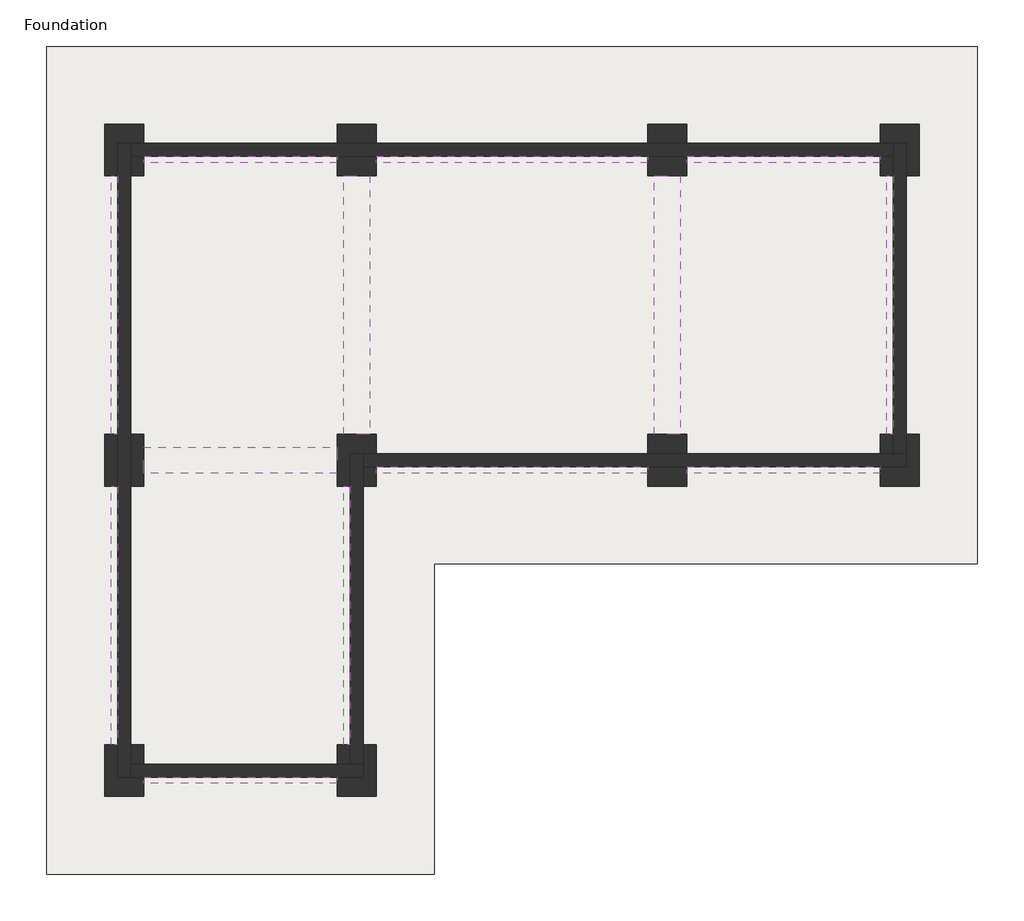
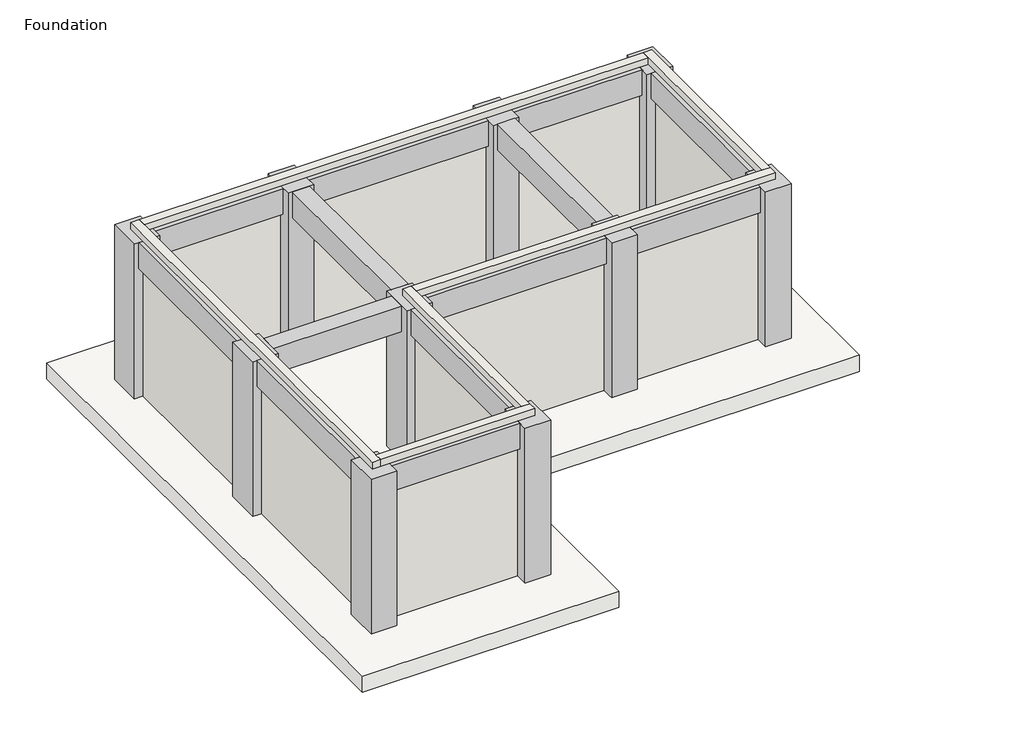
# One storey: 13 beams, 11 slabs, 10 columns, 6 walls.
"""IFC4 building model written with IfcOpenShell, lengths in millimetres."""

from ifc_helpers import new_model, si_unit, frame, origin, origin_with_axes, place, context, project, spatial, polyline, outline, extrude, faceted_brep, element, save

model = new_model("IFC4")

# Units and contexts
model_context = context("Model", 3, world=origin())
ifc_project = project(units=[si_unit("LENGTHUNIT", "METRE", prefix="MILLI")], contexts=[model_context])

# Site, building, storey
site = spatial("IfcSite", under=ifc_project)
building = spatial("IfcBuilding", under=site)
storey = spatial("IfcBuildingStorey", under=building, Name="Foundation", Elevation=0.0)

# Beams
placement = place(None, origin())
element("IfcBeam", 1, ObjectType="Concrete-Rectangular Beam : 12 x 24", at=placement, inside=storey, context=model_context, shape_type="SweptSolid", body=[
    extrude(outline(polyline([(-20798.018666, 15705.8753347), (-23084.018666, 15705.8753347), (-23084.018666, 15782.0753347), (-20798.018666, 15782.0753347), (-20798.018666, 15705.8753347)])), frame((0.0, 0.0, 2438.4), z_axis=(0.0, 0.0, 1.0), x_axis=(1.0, 0.0, 0.0)), (0.0, 0.0, 1.0), 482.6),
    extrude(outline(polyline([(-23084.018666, 16010.6753347), (-20798.018666, 16010.6753347), (-20798.018666, 15934.4753347), (-23084.018666, 15934.4753347), (-23084.018666, 16010.6753347)])), frame((0.0, 0.0, 2438.4), z_axis=(0.0, 0.0, 1.0), x_axis=(1.0, 0.0, 0.0)), (0.0, 0.0, 1.0), 482.6),
])
element("IfcBeam", 2, ObjectType="Concrete-Rectangular Beam : 12 x 24", at=placement, inside=storey, context=model_context, shape_type="SweptSolid", body=[
    extrude(outline(polyline([(-17140.418666, 15705.8753347), (-20340.818666, 15705.8753347), (-20340.818666, 15782.0753347), (-17140.418666, 15782.0753347), (-17140.418666, 15705.8753347)])), frame((0.0, 0.0, 2438.4), z_axis=(0.0, 0.0, 1.0), x_axis=(1.0, 0.0, 0.0)), (0.0, 0.0, 1.0), 482.6),
    extrude(outline(polyline([(-20340.818666, 16010.6753347), (-17140.418666, 16010.6753347), (-17140.418666, 15934.4753347), (-20340.818666, 15934.4753347), (-20340.818666, 16010.6753347)])), frame((0.0, 0.0, 2438.4), z_axis=(0.0, 0.0, 1.0), x_axis=(1.0, 0.0, 0.0)), (0.0, 0.0, 1.0), 482.6),
])
element("IfcBeam", 3, ObjectType="Concrete-Rectangular Beam : 12 x 24", at=placement, inside=storey, context=model_context, shape_type="SweptSolid", body=[
    extrude(outline(polyline([(-14397.218666, 15705.8753347), (-16683.218666, 15705.8753347), (-16683.218666, 15782.0753347), (-14397.218666, 15782.0753347), (-14397.218666, 15705.8753347)])), frame((0.0, 0.0, 2438.4), z_axis=(0.0, 0.0, 1.0), x_axis=(1.0, 0.0, 0.0)), (0.0, 0.0, 1.0), 482.6),
    extrude(outline(polyline([(-16683.218666, 16010.6753347), (-14397.218666, 16010.6753347), (-14397.218666, 15934.4753347), (-16683.218666, 15934.4753347), (-16683.218666, 16010.6753347)])), frame((0.0, 0.0, 2438.4), z_axis=(0.0, 0.0, 1.0), x_axis=(1.0, 0.0, 0.0)), (0.0, 0.0, 1.0), 482.6),
])
element("IfcBeam", 4, ObjectType="Concrete-Rectangular Beam : 12 x 24", at=placement, inside=storey, context=model_context, shape_type="SweptSolid", body=[
    extrude(outline(polyline([(-14321.018666, 12505.4753347), (-14321.018666, 15553.4753347), (-14244.818666, 15553.4753347), (-14244.818666, 12505.4753347), (-14321.018666, 12505.4753347)])), frame((0.0, 0.0, 2438.4), z_axis=(0.0, 0.0, 1.0), x_axis=(1.0, 0.0, 0.0)), (0.0, 0.0, 1.0), 482.6),
    extrude(outline(polyline([(-14016.218666, 15553.4753347), (-14016.218666, 12505.4753347), (-14092.418666, 12505.4753347), (-14092.418666, 15553.4753347), (-14016.218666, 15553.4753347)])), frame((0.0, 0.0, 2438.4), z_axis=(0.0, 0.0, 1.0), x_axis=(1.0, 0.0, 0.0)), (0.0, 0.0, 1.0), 482.6),
])
element("IfcBeam", 5, ObjectType="Concrete-Rectangular Beam : 12 x 24", at=placement, inside=storey, context=model_context, shape_type="SweptSolid", body=[
    extrude(outline(polyline([(-16683.218666, 12353.0753347), (-14397.218666, 12353.0753347), (-14397.218666, 12276.8753347), (-16683.218666, 12276.8753347), (-16683.218666, 12353.0753347)])), frame((0.0, 0.0, 2438.4), z_axis=(0.0, 0.0, 1.0), x_axis=(1.0, 0.0, 0.0)), (0.0, 0.0, 1.0), 482.6),
    extrude(outline(polyline([(-14397.218666, 12048.2753347), (-16683.218666, 12048.2753347), (-16683.218666, 12124.4753347), (-14397.218666, 12124.4753347), (-14397.218666, 12048.2753347)])), frame((0.0, 0.0, 2438.4), z_axis=(0.0, 0.0, 1.0), x_axis=(1.0, 0.0, 0.0)), (0.0, 0.0, 1.0), 482.6),
])
element("IfcBeam", 6, ObjectType="Concrete-Rectangular Beam : 12 x 24", at=placement, inside=storey, context=model_context, shape_type="SweptSolid", body=[
    extrude(outline(polyline([(-20340.818666, 12353.0753347), (-17140.418666, 12353.0753347), (-17140.418666, 12276.8753347), (-20340.818666, 12276.8753347), (-20340.818666, 12353.0753347)])), frame((0.0, 0.0, 2438.4), z_axis=(0.0, 0.0, 1.0), x_axis=(1.0, 0.0, 0.0)), (0.0, 0.0, 1.0), 482.6),
    extrude(outline(polyline([(-17140.418666, 12048.2753347), (-20340.818666, 12048.2753347), (-20340.818666, 12124.4753347), (-17140.418666, 12124.4753347), (-17140.418666, 12048.2753347)])), frame((0.0, 0.0, 2438.4), z_axis=(0.0, 0.0, 1.0), x_axis=(1.0, 0.0, 0.0)), (0.0, 0.0, 1.0), 482.6),
])
element("IfcBeam", 7, ObjectType="Concrete-Rectangular Beam : 12 x 24", at=placement, inside=storey, context=model_context, shape_type="SweptSolid", body=[
    extrude(outline(polyline([(-20721.818666, 8847.8753347), (-20721.818666, 11895.8753347), (-20645.618666, 11895.8753347), (-20645.618666, 8847.8753347), (-20721.818666, 8847.8753347)])), frame((0.0, 0.0, 2438.4), z_axis=(0.0, 0.0, 1.0), x_axis=(1.0, 0.0, 0.0)), (0.0, 0.0, 1.0), 482.6),
    extrude(outline(polyline([(-20417.018666, 11895.8753347), (-20417.018666, 8847.8753347), (-20493.218666, 8847.8753347), (-20493.218666, 11895.8753347), (-20417.018666, 11895.8753347)])), frame((0.0, 0.0, 2438.4), z_axis=(0.0, 0.0, 1.0), x_axis=(1.0, 0.0, 0.0)), (0.0, 0.0, 1.0), 482.6),
])
element("IfcBeam", 8, ObjectType="Concrete-Rectangular Beam : 12 x 24", at=placement, inside=storey, context=model_context, shape_type="SweptSolid", body=[
    extrude(outline(polyline([(-23084.018666, 8695.4753347), (-20798.018666, 8695.4753347), (-20798.018666, 8619.2753347), (-23084.018666, 8619.2753347), (-23084.018666, 8695.4753347)])), frame((0.0, 0.0, 2438.4), z_axis=(0.0, 0.0, 1.0), x_axis=(1.0, 0.0, 0.0)), (0.0, 0.0, 1.0), 482.6),
    extrude(outline(polyline([(-20798.018666, 8390.6753347), (-23084.018666, 8390.6753347), (-23084.018666, 8466.8753347), (-20798.018666, 8466.8753347), (-20798.018666, 8390.6753347)])), frame((0.0, 0.0, 2438.4), z_axis=(0.0, 0.0, 1.0), x_axis=(1.0, 0.0, 0.0)), (0.0, 0.0, 1.0), 482.6),
])
element("IfcBeam", 9, ObjectType="Concrete-Rectangular Beam : 12 x 24", at=placement, inside=storey, context=model_context, shape_type="SweptSolid", body=[
    extrude(outline(polyline([(-23160.218666, 11895.8753347), (-23160.218666, 8847.8753347), (-23236.418666, 8847.8753347), (-23236.418666, 11895.8753347), (-23160.218666, 11895.8753347)])), frame((0.0, 0.0, 2438.4), z_axis=(0.0, 0.0, 1.0), x_axis=(1.0, 0.0, 0.0)), (0.0, 0.0, 1.0), 482.6),
    extrude(outline(polyline([(-23465.018666, 8847.8753347), (-23465.018666, 11895.8753347), (-23388.818666, 11895.8753347), (-23388.818666, 8847.8753347), (-23465.018666, 8847.8753347)])), frame((0.0, 0.0, 2438.4), z_axis=(0.0, 0.0, 1.0), x_axis=(1.0, 0.0, 0.0)), (0.0, 0.0, 1.0), 482.6),
])
element("IfcBeam", 10, ObjectType="Concrete-Rectangular Beam : 12 x 24", at=placement, inside=storey, context=model_context, shape_type="SweptSolid", body=[
    extrude(outline(polyline([(-23160.218666, 15553.4753347), (-23160.218666, 12505.4753347), (-23236.418666, 12505.4753347), (-23236.418666, 15553.4753347), (-23160.218666, 15553.4753347)])), frame((0.0, 0.0, 2438.4), z_axis=(0.0, 0.0, 1.0), x_axis=(1.0, 0.0, 0.0)), (0.0, 0.0, 1.0), 482.6),
    extrude(outline(polyline([(-23465.018666, 12505.4753347), (-23465.018666, 15553.4753347), (-23388.818666, 15553.4753347), (-23388.818666, 12505.4753347), (-23465.018666, 12505.4753347)])), frame((0.0, 0.0, 2438.4), z_axis=(0.0, 0.0, 1.0), x_axis=(1.0, 0.0, 0.0)), (0.0, 0.0, 1.0), 482.6),
])
element("IfcBeam", 11, ObjectType="Concrete-Rectangular Beam : 12 x 24", at=placement, inside=storey, context=model_context, shape_type="SweptSolid", body=[
    extrude(outline(polyline([(-16759.418666, 12505.4753347), (-17064.218666, 12505.4753347), (-17064.218666, 15553.4753347), (-16759.418666, 15553.4753347), (-16759.418666, 12505.4753347)])), frame((0.0, 0.0, 2438.4), z_axis=(0.0, 0.0, 1.0), x_axis=(1.0, 0.0, 0.0)), (0.0, 0.0, 1.0), 482.6),
])
element("IfcBeam", 12, ObjectType="Concrete-Rectangular Beam : 12 x 24", at=placement, inside=storey, context=model_context, shape_type="SweptSolid", body=[
    extrude(outline(polyline([(-20721.818666, 15553.4753347), (-20417.018666, 15553.4753347), (-20417.018666, 12505.4753347), (-20721.818666, 12505.4753347), (-20721.818666, 15553.4753347)])), frame((0.0, 0.0, 2438.4), z_axis=(0.0, 0.0, 1.0), x_axis=(1.0, 0.0, 0.0)), (0.0, 0.0, 1.0), 482.6),
])
element("IfcBeam", 13, ObjectType="Concrete-Rectangular Beam : 12 x 24", at=placement, inside=storey, context=model_context, shape_type="SweptSolid", body=[
    extrude(outline(polyline([(-23084.018666, 12048.2753347), (-23084.018666, 12353.0753347), (-20798.018666, 12353.0753347), (-20798.018666, 12048.2753347), (-23084.018666, 12048.2753347)])), frame((0.0, 0.0, 2438.4), z_axis=(0.0, 0.0, 1.0), x_axis=(1.0, 0.0, 0.0)), (0.0, 0.0, 1.0), 482.6),
])

# Columns
element("IfcColumn", 14, ObjectType="Concrete-Rectangular-Column : 18 x 24", at=placement, inside=storey, context=model_context, shape_type="Brep", body=[
    faceted_brep([(-23541.218666, 15553.4753347, 0.0), (-23541.218666, 16163.0753347, 0.0), (-23084.018666, 16163.0753347, 0.0), (-23084.018666, 15934.4753347, 0.0), (-23236.418666, 15934.4753347, 0.0), (-23388.818666, 15934.4753347, 0.0), (-23388.818666, 15553.4753347, 0.0), (-23541.218666, 15553.4753347, 2921.0), (-23388.818666, 15553.4753347, 2921.0), (-23541.218666, 16163.0753347, 2921.0), (-23084.018666, 16163.0753347, 2921.0), (-23388.818666, 15934.4753347, 2921.0), (-23084.018666, 15934.4753347, 2921.0)], [[[0, 1, 2, 3, 4, 5, 6]], [[7, 0, 6, 8]], [[1, 0, 7, 9]], [[2, 1, 9, 10]], [[9, 7, 8, 11, 12, 10]], [[6, 5, 11, 8]], [[3, 12, 11, 5, 4]], [[2, 10, 12, 3]]]),
    faceted_brep([(-23084.018666, 15553.4753347, 2921.0), (-23084.018666, 15553.4753347, 0.0), (-23084.018666, 15782.0753347, 0.0), (-23084.018666, 15782.0753347, 2921.0), (-23236.418666, 15553.4753347, 0.0), (-23236.418666, 15553.4753347, 2921.0), (-23236.418666, 15782.0753347, 2921.0), (-23236.418666, 15782.0753347, 0.0)], [[[0, 1, 2, 3]], [[4, 5, 6, 7]], [[2, 7, 6, 3]], [[1, 4, 7, 2]], [[1, 0, 5, 4]], [[5, 0, 3, 6]]]),
])
element("IfcColumn", 15, ObjectType="Concrete-Rectangular-Column : 18 x 24", at=placement, inside=storey, context=model_context, shape_type="SweptSolid", body=[
    extrude(outline(polyline([(-20798.018666, 16163.0753347), (-20340.818666, 16163.0753347), (-20340.818666, 15934.4753347), (-20798.018666, 15934.4753347), (-20798.018666, 16163.0753347)])), origin_with_axes(), (0.0, 0.0, 1.0), 2921.0),
    extrude(outline(polyline([(-20340.818666, 15553.4753347), (-20798.018666, 15553.4753347), (-20798.018666, 15782.0753347), (-20340.818666, 15782.0753347), (-20340.818666, 15553.4753347)])), origin_with_axes(), (0.0, 0.0, 1.0), 2921.0),
])
element("IfcColumn", 16, ObjectType="Concrete-Rectangular-Column : 18 x 24", at=placement, inside=storey, context=model_context, shape_type="SweptSolid", body=[
    extrude(outline(polyline([(-17140.418666, 16163.0753347), (-16683.218666, 16163.0753347), (-16683.218666, 15934.4753347), (-17140.418666, 15934.4753347), (-17140.418666, 16163.0753347)])), origin_with_axes(), (0.0, 0.0, 1.0), 2921.0),
    extrude(outline(polyline([(-16683.218666, 15553.4753347), (-17140.418666, 15553.4753347), (-17140.418666, 15782.0753347), (-16683.218666, 15782.0753347), (-16683.218666, 15553.4753347)])), origin_with_axes(), (0.0, 0.0, 1.0), 2921.0),
])
element("IfcColumn", 17, ObjectType="Concrete-Rectangular-Column : 18 x 24", at=placement, inside=storey, context=model_context, shape_type="Brep", body=[
    faceted_brep([(-14244.818666, 15553.4753347, 0.0), (-14397.218666, 15553.4753347, 0.0), (-14397.218666, 15782.0753347, 0.0), (-14244.818666, 15782.0753347, 0.0), (-14397.218666, 15553.4753347, 2921.0), (-14244.818666, 15553.4753347, 2921.0), (-14244.818666, 15782.0753347, 2921.0), (-14397.218666, 15782.0753347, 2921.0)], [[[0, 1, 2, 3]], [[4, 1, 0, 5]], [[4, 5, 6, 7]], [[5, 0, 3, 6]], [[3, 2, 7, 6]], [[1, 4, 7, 2]]]),
    faceted_brep([(-13940.018666, 15553.4753347, 0.0), (-13940.018666, 16163.0753347, 0.0), (-13940.018666, 16163.0753347, 2921.0), (-13940.018666, 15553.4753347, 2921.0), (-14397.218666, 16163.0753347, 2921.0), (-14397.218666, 16163.0753347, 0.0), (-14397.218666, 15934.4753347, 0.0), (-14397.218666, 15934.4753347, 2921.0), (-14092.418666, 15934.4753347, 0.0), (-14092.418666, 15553.4753347, 0.0), (-14092.418666, 15553.4753347, 2921.0), (-14092.418666, 15934.4753347, 2921.0), (-14244.818666, 15934.4753347, 0.0)], [[[0, 1, 2, 3]], [[4, 5, 6, 7]], [[1, 5, 4, 2]], [[8, 9, 10, 11]], [[8, 11, 7, 6, 12]], [[1, 0, 9, 8, 12, 6, 5]], [[0, 3, 10, 9]], [[3, 2, 4, 7, 11, 10]]]),
])
element("IfcColumn", 18, ObjectType="Concrete-Rectangular-Column : 18 x 24", at=placement, inside=storey, context=model_context, shape_type="SweptSolid", body=[
    extrude(outline(polyline([(-23541.218666, 11895.8753347), (-23541.218666, 12505.4753347), (-23388.818666, 12505.4753347), (-23388.818666, 11895.8753347), (-23541.218666, 11895.8753347)])), origin_with_axes(), (0.0, 0.0, 1.0), 2921.0),
    extrude(outline(polyline([(-23084.018666, 12505.4753347), (-23084.018666, 11895.8753347), (-23236.418666, 11895.8753347), (-23236.418666, 12505.4753347), (-23084.018666, 12505.4753347)])), origin_with_axes(), (0.0, 0.0, 1.0), 2921.0),
])
element("IfcColumn", 19, ObjectType="Concrete-Rectangular-Column : 18 x 24", at=placement, inside=storey, context=model_context, shape_type="Brep", body=[
    faceted_brep([(-20798.018666, 11895.8753347, 0.0), (-20798.018666, 12505.4753347, 0.0), (-20340.818666, 12505.4753347, 0.0), (-20340.818666, 12276.8753347, 0.0), (-20493.218666, 12276.8753347, 0.0), (-20645.618666, 12276.8753347, 0.0), (-20645.618666, 11895.8753347, 0.0), (-20798.018666, 11895.8753347, 2921.0), (-20645.618666, 11895.8753347, 2921.0), (-20798.018666, 12505.4753347, 2921.0), (-20340.818666, 12505.4753347, 2921.0), (-20645.618666, 12276.8753347, 2921.0), (-20340.818666, 12276.8753347, 2921.0)], [[[0, 1, 2, 3, 4, 5, 6]], [[7, 0, 6, 8]], [[1, 0, 7, 9]], [[2, 1, 9, 10]], [[9, 7, 8, 11, 12, 10]], [[6, 5, 11, 8]], [[3, 12, 11, 5, 4]], [[2, 10, 12, 3]]]),
    faceted_brep([(-20340.818666, 11895.8753347, 2921.0), (-20340.818666, 11895.8753347, 0.0), (-20340.818666, 12124.4753347, 0.0), (-20340.818666, 12124.4753347, 2921.0), (-20493.218666, 11895.8753347, 0.0), (-20493.218666, 11895.8753347, 2921.0), (-20493.218666, 12124.4753347, 2921.0), (-20493.218666, 12124.4753347, 0.0)], [[[0, 1, 2, 3]], [[4, 5, 6, 7]], [[2, 7, 6, 3]], [[1, 4, 7, 2]], [[1, 0, 5, 4]], [[5, 0, 3, 6]]]),
])
element("IfcColumn", 20, ObjectType="Concrete-Rectangular-Column : 18 x 24", at=placement, inside=storey, context=model_context, shape_type="SweptSolid", body=[
    extrude(outline(polyline([(-17140.418666, 12505.4753347), (-16683.218666, 12505.4753347), (-16683.218666, 12276.8753347), (-17140.418666, 12276.8753347), (-17140.418666, 12505.4753347)])), origin_with_axes(), (0.0, 0.0, 1.0), 2921.0),
    extrude(outline(polyline([(-16683.218666, 11895.8753347), (-17140.418666, 11895.8753347), (-17140.418666, 12124.4753347), (-16683.218666, 12124.4753347), (-16683.218666, 11895.8753347)])), origin_with_axes(), (0.0, 0.0, 1.0), 2921.0),
])
element("IfcColumn", 21, ObjectType="Concrete-Rectangular-Column : 18 x 24", at=placement, inside=storey, context=model_context, shape_type="Brep", body=[
    faceted_brep([(-14397.218666, 12276.8753347, 0.0), (-14397.218666, 12505.4753347, 0.0), (-14244.818666, 12505.4753347, 0.0), (-14244.818666, 12276.8753347, 0.0), (-14397.218666, 12505.4753347, 2921.0), (-14397.218666, 12276.8753347, 2921.0), (-14244.818666, 12505.4753347, 2921.0), (-14244.818666, 12276.8753347, 2921.0)], [[[0, 1, 2, 3]], [[4, 1, 0, 5]], [[1, 4, 6, 2]], [[4, 5, 7, 6]], [[5, 0, 3, 7]], [[3, 2, 6, 7]]]),
    faceted_brep([(-13940.018666, 11895.8753347, 0.0), (-13940.018666, 12505.4753347, 0.0), (-13940.018666, 12505.4753347, 2921.0), (-13940.018666, 11895.8753347, 2921.0), (-14397.218666, 11895.8753347, 0.0), (-14397.218666, 11895.8753347, 2921.0), (-14092.418666, 12124.4753347, 0.0), (-14397.218666, 12124.4753347, 0.0), (-14397.218666, 12124.4753347, 2921.0), (-14092.418666, 12124.4753347, 2921.0), (-14092.418666, 12505.4753347, 2921.0), (-14092.418666, 12505.4753347, 0.0), (-14092.418666, 12276.8753347, 0.0)], [[[0, 1, 2, 3]], [[4, 0, 3, 5]], [[6, 7, 8, 9]], [[6, 9, 10, 11, 12]], [[1, 0, 4, 7, 6, 12, 11]], [[4, 5, 8, 7]], [[2, 1, 11, 10]], [[3, 2, 10, 9, 8, 5]]]),
])
element("IfcColumn", 22, ObjectType="Concrete-Rectangular-Column : 18 x 24", at=placement, inside=storey, context=model_context, shape_type="Brep", body=[
    faceted_brep([(-23236.418666, 8847.8753347, 0.0), (-23084.018666, 8847.8753347, 0.0), (-23084.018666, 8619.2753347, 0.0), (-23236.418666, 8619.2753347, 0.0), (-23236.418666, 8847.8753347, 2921.0), (-23236.418666, 8619.2753347, 2921.0), (-23084.018666, 8619.2753347, 2921.0), (-23084.018666, 8847.8753347, 2921.0)], [[[0, 1, 2, 3]], [[4, 0, 3, 5]], [[3, 2, 6, 5]], [[7, 1, 0, 4]], [[1, 7, 6, 2]], [[7, 4, 5, 6]]]),
    faceted_brep([(-23084.018666, 8238.2753347, 2921.0), (-23084.018666, 8238.2753347, 0.0), (-23084.018666, 8466.8753347, 0.0), (-23084.018666, 8466.8753347, 2921.0), (-23541.218666, 8238.2753347, 0.0), (-23541.218666, 8238.2753347, 2921.0), (-23541.218666, 8847.8753347, 0.0), (-23541.218666, 8847.8753347, 2921.0), (-23388.818666, 8847.8753347, 2921.0), (-23388.818666, 8847.8753347, 0.0), (-23388.818666, 8466.8753347, 2921.0), (-23388.818666, 8466.8753347, 0.0), (-23236.418666, 8466.8753347, 0.0)], [[[0, 1, 2, 3]], [[4, 1, 0, 5]], [[6, 4, 5, 7]], [[6, 7, 8, 9]], [[5, 0, 3, 10, 8, 7]], [[11, 9, 8, 10]], [[11, 10, 3, 2, 12]], [[1, 4, 6, 9, 11, 12, 2]]]),
])
element("IfcColumn", 23, ObjectType="Concrete-Rectangular-Column : 18 x 24", at=placement, inside=storey, context=model_context, shape_type="Brep", body=[
    faceted_brep([(-20798.018666, 8619.2753347, 0.0), (-20798.018666, 8847.8753347, 0.0), (-20645.618666, 8847.8753347, 0.0), (-20645.618666, 8619.2753347, 0.0), (-20798.018666, 8847.8753347, 2921.0), (-20798.018666, 8619.2753347, 2921.0), (-20645.618666, 8847.8753347, 2921.0), (-20645.618666, 8619.2753347, 2921.0)], [[[0, 1, 2, 3]], [[4, 1, 0, 5]], [[1, 4, 6, 2]], [[4, 5, 7, 6]], [[5, 0, 3, 7]], [[3, 2, 6, 7]]]),
    faceted_brep([(-20340.818666, 8238.2753347, 0.0), (-20340.818666, 8847.8753347, 0.0), (-20340.818666, 8847.8753347, 2921.0), (-20340.818666, 8238.2753347, 2921.0), (-20798.018666, 8238.2753347, 0.0), (-20798.018666, 8238.2753347, 2921.0), (-20493.218666, 8466.8753347, 0.0), (-20798.018666, 8466.8753347, 0.0), (-20798.018666, 8466.8753347, 2921.0), (-20493.218666, 8466.8753347, 2921.0), (-20493.218666, 8847.8753347, 2921.0), (-20493.218666, 8847.8753347, 0.0), (-20493.218666, 8619.2753347, 0.0)], [[[0, 1, 2, 3]], [[4, 0, 3, 5]], [[6, 7, 8, 9]], [[6, 9, 10, 11, 12]], [[1, 0, 4, 7, 6, 12, 11]], [[4, 5, 8, 7]], [[2, 1, 11, 10]], [[3, 2, 10, 9, 8, 5]]]),
])

# Slabs
element("IfcSlab", 24, ObjectType="12\" Foundation Slab", at=placement, inside=storey, context=model_context, shape_type="SweptSolid", body=[
    extrude(outline(polyline([(-24227.018666, 7323.8753347), (-24227.018666, 17077.4753347), (-13254.218666, 17077.4753347), (-13254.218666, 10981.4753347), (-19655.018666, 10981.4753347), (-19655.018666, 7323.8753347), (-24227.018666, 7323.8753347)])), frame((0.0, 0.0, -304.8), z_axis=(0.0, 0.0, 1.0), x_axis=(1.0, 0.0, 0.0)), (0.0, 0.0, 1.0), 304.8),
])
element("IfcSlab", 25, ObjectType="Footing-Rectangular : 72\" x 48\" x 18\"", at=placement, inside=storey, context=model_context, shape_type="SweptSolid", body=[
    extrude(outline(polyline([(-22703.018666, 9457.4753347), (-22703.018666, 7628.6753347), (-23922.218666, 7628.6753347), (-23922.218666, 9457.4753347), (-22703.018666, 9457.4753347)])), frame((0.0, 0.0, -457.2), z_axis=(0.0, 0.0, 1.0), x_axis=(1.0, 0.0, 0.0)), (0.0, 0.0, 1.0), 152.4),
])
element("IfcSlab", 26, ObjectType="Footing-Rectangular : 72\" x 48\" x 18\"", at=placement, inside=storey, context=model_context, shape_type="SweptSolid", body=[
    extrude(outline(polyline([(-19959.818666, 9457.4753347), (-19959.818666, 7628.6753347), (-21179.018666, 7628.6753347), (-21179.018666, 9457.4753347), (-19959.818666, 9457.4753347)])), frame((0.0, 0.0, -457.2), z_axis=(0.0, 0.0, 1.0), x_axis=(1.0, 0.0, 0.0)), (0.0, 0.0, 1.0), 152.4),
])
element("IfcSlab", 27, ObjectType="Footing-Rectangular : 72\" x 48\" x 18\"", at=placement, inside=storey, context=model_context, shape_type="SweptSolid", body=[
    extrude(outline(polyline([(-22703.018666, 16772.6753347), (-22703.018666, 14943.8753347), (-23922.218666, 14943.8753347), (-23922.218666, 16772.6753347), (-22703.018666, 16772.6753347)])), frame((0.0, 0.0, -457.2), z_axis=(0.0, 0.0, 1.0), x_axis=(1.0, 0.0, 0.0)), (0.0, 0.0, 1.0), 152.4),
])
element("IfcSlab", 28, ObjectType="Footing-Rectangular : 72\" x 48\" x 18\"", at=placement, inside=storey, context=model_context, shape_type="SweptSolid", body=[
    extrude(outline(polyline([(-19959.818666, 16772.6753347), (-19959.818666, 14943.8753347), (-21179.018666, 14943.8753347), (-21179.018666, 16772.6753347), (-19959.818666, 16772.6753347)])), frame((0.0, 0.0, -457.2), z_axis=(0.0, 0.0, 1.0), x_axis=(1.0, 0.0, 0.0)), (0.0, 0.0, 1.0), 152.4),
])
element("IfcSlab", 29, ObjectType="Footing-Rectangular : 72\" x 48\" x 18\"", at=placement, inside=storey, context=model_context, shape_type="SweptSolid", body=[
    extrude(outline(polyline([(-16302.218666, 16772.6753347), (-16302.218666, 14943.8753347), (-17521.418666, 14943.8753347), (-17521.418666, 16772.6753347), (-16302.218666, 16772.6753347)])), frame((0.0, 0.0, -457.2), z_axis=(0.0, 0.0, 1.0), x_axis=(1.0, 0.0, 0.0)), (0.0, 0.0, 1.0), 152.4),
])
element("IfcSlab", 30, ObjectType="Footing-Rectangular : 72\" x 48\" x 18\"", at=placement, inside=storey, context=model_context, shape_type="SweptSolid", body=[
    extrude(outline(polyline([(-13559.018666, 16772.6753347), (-13559.018666, 14943.8753347), (-14778.218666, 14943.8753347), (-14778.218666, 16772.6753347), (-13559.018666, 16772.6753347)])), frame((0.0, 0.0, -457.2), z_axis=(0.0, 0.0, 1.0), x_axis=(1.0, 0.0, 0.0)), (0.0, 0.0, 1.0), 152.4),
])
element("IfcSlab", 31, ObjectType="Footing-Rectangular : 72\" x 48\" x 18\"", at=placement, inside=storey, context=model_context, shape_type="SweptSolid", body=[
    extrude(outline(polyline([(-22703.018666, 13115.0753347), (-22703.018666, 11286.2753347), (-23922.218666, 11286.2753347), (-23922.218666, 13115.0753347), (-22703.018666, 13115.0753347)])), frame((0.0, 0.0, -457.2), z_axis=(0.0, 0.0, 1.0), x_axis=(1.0, 0.0, 0.0)), (0.0, 0.0, 1.0), 152.4),
])
element("IfcSlab", 32, ObjectType="Footing-Rectangular : 72\" x 48\" x 18\"", at=placement, inside=storey, context=model_context, shape_type="SweptSolid", body=[
    extrude(outline(polyline([(-19959.818666, 13115.0753347), (-19959.818666, 11286.2753347), (-21179.018666, 11286.2753347), (-21179.018666, 13115.0753347), (-19959.818666, 13115.0753347)])), frame((0.0, 0.0, -457.2), z_axis=(0.0, 0.0, 1.0), x_axis=(1.0, 0.0, 0.0)), (0.0, 0.0, 1.0), 152.4),
])
element("IfcSlab", 33, ObjectType="Footing-Rectangular : 72\" x 48\" x 18\"", at=placement, inside=storey, context=model_context, shape_type="SweptSolid", body=[
    extrude(outline(polyline([(-16302.218666, 13115.0753347), (-16302.218666, 11286.2753347), (-17521.418666, 11286.2753347), (-17521.418666, 13115.0753347), (-16302.218666, 13115.0753347)])), frame((0.0, 0.0, -457.2), z_axis=(0.0, 0.0, 1.0), x_axis=(1.0, 0.0, 0.0)), (0.0, 0.0, 1.0), 152.4),
])
element("IfcSlab", 34, ObjectType="Footing-Rectangular : 72\" x 48\" x 18\"", at=placement, inside=storey, context=model_context, shape_type="SweptSolid", body=[
    extrude(outline(polyline([(-13559.018666, 13115.0753347), (-13559.018666, 11286.2753347), (-14778.218666, 11286.2753347), (-14778.218666, 13115.0753347), (-13559.018666, 13115.0753347)])), frame((0.0, 0.0, -457.2), z_axis=(0.0, 0.0, 1.0), x_axis=(1.0, 0.0, 0.0)), (0.0, 0.0, 1.0), 152.4),
])

# Walls
element("IfcWall", 35, ObjectType="Retaining - 6\" Concrete", at=placement, inside=storey, context=model_context, shape_type="Brep", body=[
    faceted_brep([(-23388.818666, 15934.4753347, 0.0), (-23388.818666, 15553.4753347, 0.0), (-23388.818666, 12505.4753347, 0.0), (-23388.818666, 11895.8753347, 0.0), (-23388.818666, 8847.8753347, 0.0), (-23388.818666, 8466.8753347, 0.0), (-23388.818666, 8466.8753347, 2921.0), (-23388.818666, 8466.8753347, 3048.0), (-23388.818666, 15934.4753347, 3048.0), (-23388.818666, 15934.4753347, 2921.0), (-23236.418666, 15934.4753347, 0.0), (-23236.418666, 15934.4753347, 3048.0), (-23236.418666, 15782.0753347, 3048.0), (-23236.418666, 8619.2753347, 3048.0), (-23236.418666, 8466.8753347, 3048.0), (-23236.418666, 8466.8753347, 0.0), (-23236.418666, 8619.2753347, 0.0), (-23236.418666, 8847.8753347, 0.0), (-23236.418666, 11895.8753347, 0.0), (-23236.418666, 12505.4753347, 0.0), (-23236.418666, 15553.4753347, 0.0), (-23236.418666, 15782.0753347, 0.0)], [[[0, 1, 2, 3, 4, 5, 6, 7, 8, 9]], [[10, 11, 12, 13, 14, 15, 16, 17, 18, 19, 20, 21]], [[5, 4, 3, 2, 1, 0, 10, 21, 20, 19, 18, 17, 16, 15]], [[8, 7, 14, 13, 12, 11]], [[7, 6, 5, 15, 14]], [[0, 9, 8, 11, 10]]]),
])
element("IfcWall", 36, ObjectType="Retaining - 6\" Concrete", at=placement, inside=storey, context=model_context, shape_type="Brep", body=[
    faceted_brep([(-23236.418666, 8466.8753347, 0.0), (-23084.018666, 8466.8753347, 0.0), (-20798.018666, 8466.8753347, 0.0), (-20493.218666, 8466.8753347, 0.0), (-20493.218666, 8466.8753347, 2921.0), (-20493.218666, 8466.8753347, 3048.0), (-23236.418666, 8466.8753347, 3048.0), (-23236.418666, 8619.2753347, 0.0), (-23236.418666, 8619.2753347, 2921.0), (-23236.418666, 8619.2753347, 3048.0), (-20645.618666, 8619.2753347, 3048.0), (-20493.218666, 8619.2753347, 3048.0), (-20493.218666, 8619.2753347, 0.0), (-20645.618666, 8619.2753347, 0.0), (-20798.018666, 8619.2753347, 0.0), (-23084.018666, 8619.2753347, 0.0)], [[[0, 1, 2, 3, 4, 5, 6]], [[7, 8, 9, 10, 11, 12, 13, 14, 15]], [[3, 2, 1, 0, 7, 15, 14, 13, 12]], [[6, 5, 11, 10, 9]], [[0, 6, 9, 8, 7]], [[5, 4, 3, 12, 11]]]),
])
element("IfcWall", 37, ObjectType="Retaining - 6\" Concrete", at=placement, inside=storey, context=model_context, shape_type="Brep", body=[
    faceted_brep([(-20493.218666, 8619.2753347, 0.0), (-20493.218666, 8847.8753347, 0.0), (-20493.218666, 11895.8753347, 0.0), (-20493.218666, 12124.4753347, 0.0), (-20493.218666, 12276.8753347, 0.0), (-20493.218666, 12276.8753347, 3048.0), (-20493.218666, 12124.4753347, 3048.0), (-20493.218666, 8619.2753347, 3048.0), (-20645.618666, 8619.2753347, 0.0), (-20645.618666, 8619.2753347, 2921.0), (-20645.618666, 8619.2753347, 3048.0), (-20645.618666, 12276.8753347, 3048.0), (-20645.618666, 12276.8753347, 2921.0), (-20645.618666, 12276.8753347, 0.0), (-20645.618666, 11895.8753347, 0.0), (-20645.618666, 8847.8753347, 0.0)], [[[0, 1, 2, 3, 4, 5, 6, 7]], [[8, 9, 10, 11, 12, 13, 14, 15]], [[4, 3, 2, 1, 0, 8, 15, 14, 13]], [[7, 6, 5, 11, 10]], [[0, 7, 10, 9, 8]], [[5, 4, 13, 12, 11]]]),
])
element("IfcWall", 38, ObjectType="Retaining - 6\" Concrete", at=placement, inside=storey, context=model_context, shape_type="Brep", body=[
    faceted_brep([(-20493.218666, 12124.4753347, 0.0), (-20340.818666, 12124.4753347, 0.0), (-17140.418666, 12124.4753347, 0.0), (-16683.218666, 12124.4753347, 0.0), (-14397.218666, 12124.4753347, 0.0), (-14092.418666, 12124.4753347, 0.0), (-14092.418666, 12124.4753347, 2921.0), (-14092.418666, 12124.4753347, 3048.0), (-20493.218666, 12124.4753347, 3048.0), (-20493.218666, 12124.4753347, 2921.0), (-20493.218666, 12276.8753347, 0.0), (-20493.218666, 12276.8753347, 3048.0), (-14244.818666, 12276.8753347, 3048.0), (-14092.418666, 12276.8753347, 3048.0), (-14092.418666, 12276.8753347, 0.0), (-14244.818666, 12276.8753347, 0.0), (-14397.218666, 12276.8753347, 0.0), (-16683.218666, 12276.8753347, 0.0), (-17140.418666, 12276.8753347, 0.0), (-20340.818666, 12276.8753347, 0.0)], [[[0, 1, 2, 3, 4, 5, 6, 7, 8, 9]], [[10, 11, 12, 13, 14, 15, 16, 17, 18, 19]], [[5, 4, 3, 2, 1, 0, 10, 19, 18, 17, 16, 15, 14]], [[8, 7, 13, 12, 11]], [[0, 9, 8, 11, 10]], [[7, 6, 5, 14, 13]]]),
])
element("IfcWall", 39, ObjectType="Retaining - 6\" Concrete", at=placement, inside=storey, context=model_context, shape_type="Brep", body=[
    faceted_brep([(-14092.418666, 12276.8753347, 0.0), (-14092.418666, 12505.4753347, 0.0), (-14092.418666, 15553.4753347, 0.0), (-14092.418666, 15934.4753347, 0.0), (-14092.418666, 15934.4753347, 2921.0), (-14092.418666, 15934.4753347, 3048.0), (-14092.418666, 12276.8753347, 3048.0), (-14244.818666, 12276.8753347, 0.0), (-14244.818666, 12276.8753347, 2921.0), (-14244.818666, 12276.8753347, 3048.0), (-14244.818666, 15782.0753347, 3048.0), (-14244.818666, 15934.4753347, 3048.0), (-14244.818666, 15934.4753347, 0.0), (-14244.818666, 15782.0753347, 0.0), (-14244.818666, 15553.4753347, 0.0), (-14244.818666, 12505.4753347, 0.0)], [[[0, 1, 2, 3, 4, 5, 6]], [[7, 8, 9, 10, 11, 12, 13, 14, 15]], [[3, 2, 1, 0, 7, 15, 14, 13, 12]], [[6, 5, 11, 10, 9]], [[0, 6, 9, 8, 7]], [[5, 4, 3, 12, 11]]]),
])
element("IfcWall", 40, ObjectType="Retaining - 6\" Concrete", at=placement, inside=storey, context=model_context, shape_type="Brep", body=[
    faceted_brep([(-14244.818666, 15934.4753347, 0.0), (-14397.218666, 15934.4753347, 0.0), (-16683.218666, 15934.4753347, 0.0), (-17140.418666, 15934.4753347, 0.0), (-20340.818666, 15934.4753347, 0.0), (-20798.018666, 15934.4753347, 0.0), (-23084.018666, 15934.4753347, 0.0), (-23236.418666, 15934.4753347, 0.0), (-23236.418666, 15934.4753347, 3048.0), (-14244.818666, 15934.4753347, 3048.0), (-14244.818666, 15782.0753347, 0.0), (-14244.818666, 15782.0753347, 2921.0), (-14244.818666, 15782.0753347, 3048.0), (-23236.418666, 15782.0753347, 3048.0), (-23236.418666, 15782.0753347, 2921.0), (-23236.418666, 15782.0753347, 0.0), (-23084.018666, 15782.0753347, 0.0), (-20798.018666, 15782.0753347, 0.0), (-20340.818666, 15782.0753347, 0.0), (-17140.418666, 15782.0753347, 0.0), (-16683.218666, 15782.0753347, 0.0), (-14397.218666, 15782.0753347, 0.0)], [[[0, 1, 2, 3, 4, 5, 6, 7, 8, 9]], [[10, 11, 12, 13, 14, 15, 16, 17, 18, 19, 20, 21]], [[7, 6, 5, 4, 3, 2, 1, 0, 10, 21, 20, 19, 18, 17, 16, 15]], [[9, 8, 13, 12]], [[8, 7, 15, 14, 13]], [[0, 9, 12, 11, 10]]]),
])

save(model, "model.ifc")
